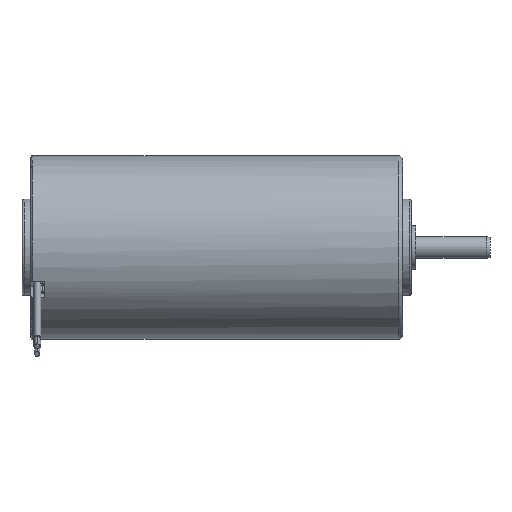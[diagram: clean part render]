
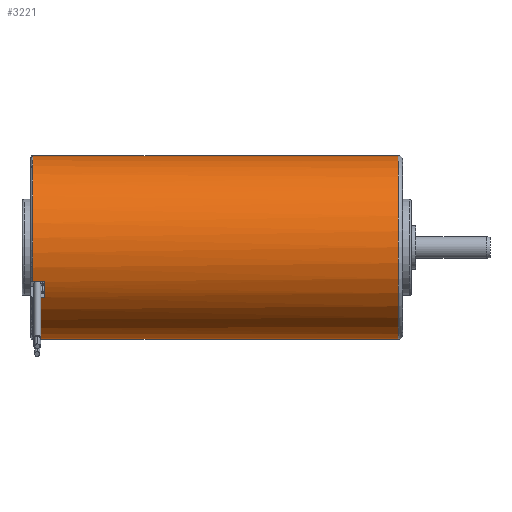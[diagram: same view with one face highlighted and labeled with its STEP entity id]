
A CAD part, top view. The second image highlights one B-rep face of the part: STEP entity #3221.
In plain terms, the highlighted cylindrical face has radius 21 mm (diameter 42 mm), a partial arc.
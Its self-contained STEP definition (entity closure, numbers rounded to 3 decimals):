
#953=CARTESIAN_POINT('',(-84.5,0.,0.));
#954=DIRECTION('',(-1.,0.,0.));
#955=DIRECTION('',(0.,-0.375,0.927));
#956=AXIS2_PLACEMENT_3D('',#953,#954,#955);
#987=CARTESIAN_POINT('',(-84.5,0.,0.));
#988=DIRECTION('',(-1.,0.,0.));
#989=DIRECTION('',(0.,-1.,0.));
#990=AXIS2_PLACEMENT_3D('',#987,#988,#989);
#992=DIRECTION('',(-1.,0.,0.));
#993=VECTOR('',#992,83.5);
#994=CARTESIAN_POINT('',(-1.,-21.,0.));
#995=LINE('',#994,#993);
#996=DIRECTION('',(-1.,0.,0.));
#997=VECTOR('',#996,83.5);
#998=CARTESIAN_POINT('',(-1.,21.,0.));
#999=LINE('',#998,#997);
#1004=DIRECTION('',(1.,0.,0.));
#1005=VECTOR('',#1004,2.75);
#1006=CARTESIAN_POINT('',(-84.5,-11.427,17.619));
#1007=LINE('',#1006,#1005);
#1012=DIRECTION('',(1.,0.,0.));
#1013=VECTOR('',#1012,2.75);
#1014=CARTESIAN_POINT('',(-84.5,-7.879,19.466));
#1015=LINE('',#1014,#1013);
#1016=CARTESIAN_POINT('',(-81.75,0.,0.));
#1017=DIRECTION('',(1.,0.,0.));
#1018=DIRECTION('',(0.,-0.375,0.927));
#1019=AXIS2_PLACEMENT_3D('',#1016,#1017,#1018);
#1221=CARTESIAN_POINT('',(-1.,0.,0.));
#1222=DIRECTION('',(-1.,0.,0.));
#1223=DIRECTION('',(0.,-1.,0.));
#1224=AXIS2_PLACEMENT_3D('',#1221,#1222,#1223);
#1697=CARTESIAN_POINT('',(-81.75,-7.879,19.466));
#1698=CARTESIAN_POINT('',(-81.75,-11.427,17.619));
#1699=VERTEX_POINT('',#1697);
#1700=VERTEX_POINT('',#1698);
#1805=CARTESIAN_POINT('',(-84.5,21.,0.));
#1806=CARTESIAN_POINT('',(-84.5,-21.,0.));
#1807=VERTEX_POINT('',#1805);
#1808=VERTEX_POINT('',#1806);
#1809=CARTESIAN_POINT('',(-84.5,-11.427,17.619));
#1810=VERTEX_POINT('',#1809);
#1943=CARTESIAN_POINT('',(-1.,21.,0.));
#1944=CARTESIAN_POINT('',(-1.,-21.,0.));
#1945=VERTEX_POINT('',#1943);
#1946=VERTEX_POINT('',#1944);
#1983=CARTESIAN_POINT('',(-84.5,-7.879,19.466));
#1984=VERTEX_POINT('',#1983);
#3202=CARTESIAN_POINT('',(-91.45,0.,0.));
#3203=DIRECTION('',(1.,0.,0.));
#3204=DIRECTION('',(0.,-1.,0.));
#3205=AXIS2_PLACEMENT_3D('',#3202,#3203,#3204);
#3206=CYLINDRICAL_SURFACE('',#3205,21.);
#3207=ORIENTED_EDGE('',*,*,#3182,.T.);
#3209=ORIENTED_EDGE('',*,*,#3208,.T.);
#3211=ORIENTED_EDGE('',*,*,#3210,.F.);
#3213=ORIENTED_EDGE('',*,*,#3212,.F.);
#3214=ORIENTED_EDGE('',*,*,#3175,.T.);
#3215=ORIENTED_EDGE('',*,*,#3197,.F.);
#3217=ORIENTED_EDGE('',*,*,#3216,.F.);
#3218=ORIENTED_EDGE('',*,*,#3193,.T.);
#3219=EDGE_LOOP('',(#3207,#3209,#3211,#3213,#3214,#3215,#3217,#3218));
#3220=FACE_OUTER_BOUND('',#3219,.F.);
#3221=ADVANCED_FACE('',(#3220),#3206,.T.);
#957=CIRCLE('',#956,21.);
#991=CIRCLE('',#990,21.);
#1020=CIRCLE('',#1019,21.);
#1225=CIRCLE('',#1224,21.);
#3175=EDGE_CURVE('',#1984,#1807,#957,.T.);
#3182=EDGE_CURVE('',#1808,#1810,#991,.T.);
#3193=EDGE_CURVE('',#1946,#1808,#995,.T.);
#3197=EDGE_CURVE('',#1945,#1807,#999,.T.);
#3208=EDGE_CURVE('',#1810,#1700,#1007,.T.);
#3210=EDGE_CURVE('',#1699,#1700,#1020,.T.);
#3212=EDGE_CURVE('',#1984,#1699,#1015,.T.);
#3216=EDGE_CURVE('',#1946,#1945,#1225,.T.);
